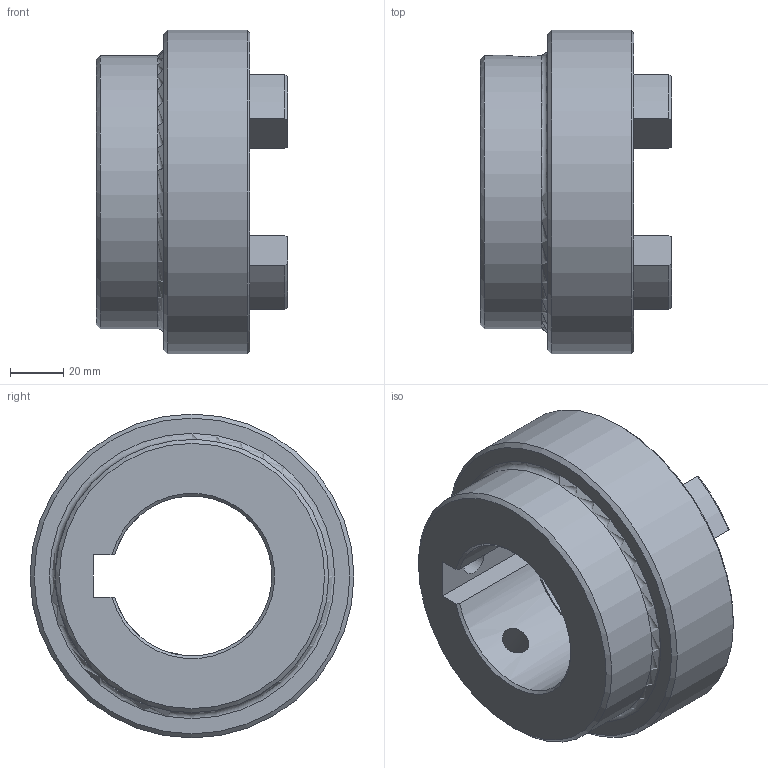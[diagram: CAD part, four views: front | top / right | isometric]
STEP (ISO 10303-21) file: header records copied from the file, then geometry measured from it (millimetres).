
FILE_DESCRIPTION (( 'STEP AP203' ), '1' );
FILE_NAME ('RC5.step', '2024-07-25T13:39:30', ( 'Adlan' ), ( '' ), 'SwSTEP 2.0', 'SolidWorks 2013', '' );
FILE_SCHEMA (( 'CONFIG_CONTROL_DESIGN' ));
Length unit declared in the file: inch
Products named in the file (1): RC5
Bounding box: 72.14 x 122.17 x 122.17 mm (x, y, z)
Volume: 353677.1 mm3; surface area: 58978.4 mm2
Topology: 1 solids, 1 shells, 88 faces, 244 edges, 157 vertices
Faces by surface type: cylinder 33, plane 24, torus 17, cone 14
Full cylindrical faces by diameter (mm): 10.716 x2, 103.124 x1, 122.174 x1
Entity records: 3149 total; most frequent: CARTESIAN_POINT 871, DIRECTION 470, ORIENTED_EDGE 456, EDGE_CURVE 228, AXIS2_PLACEMENT_3D 190, VERTEX_POINT 151, EDGE_LOOP 103, CIRCLE 101
